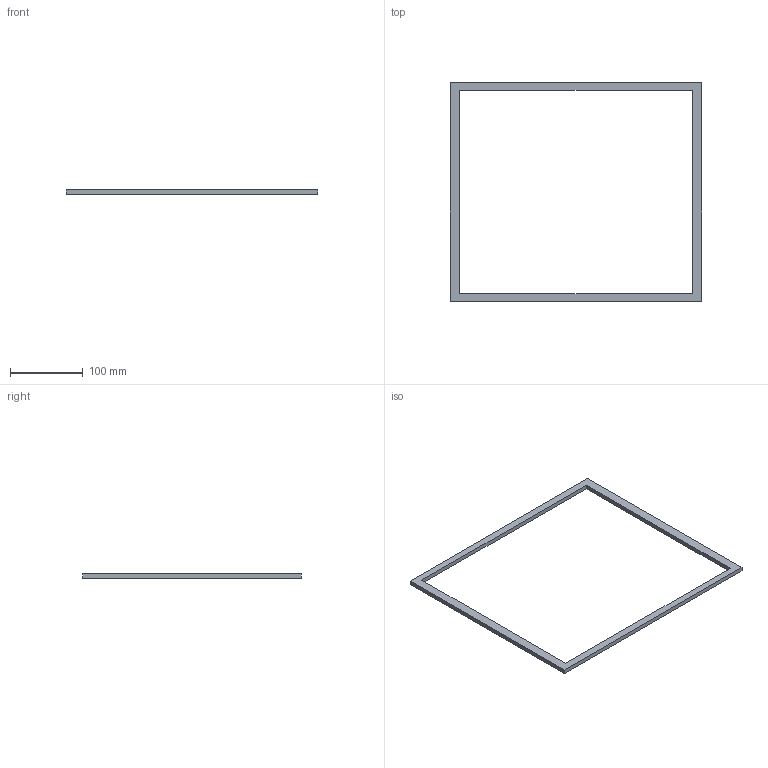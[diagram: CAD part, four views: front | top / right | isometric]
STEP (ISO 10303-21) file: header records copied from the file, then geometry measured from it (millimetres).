
FILE_DESCRIPTION(('Open CASCADE Model'),'2;1');
FILE_NAME('Open CASCADE Shape Model','2026-10-16T18:52:00',('Author'),( 'Open CASCADE'),'Open CASCADE STEP processor 7.8','Open CASCADE 7.8' ,'Unknown');
FILE_SCHEMA(('AUTOMOTIVE_DESIGN { 1 0 10303 214 1 1 1 1 }'));
Length unit declared in the file: millimetre
Products named in the file (1): Open CASCADE STEP translator 7.8 5
Bounding box: 346 x 300 x 6 mm (x, y, z)
Volume: 85200 mm3; surface area: 43352 mm2
Topology: 1 solids, 1 shells, 10 faces, 24 edges, 16 vertices
Faces by surface type: plane 10
Entity records: 598 total; most frequent: CARTESIAN_POINT 115, DIRECTION 78, LINE 56, VECTOR 56, ORIENTED_EDGE 48, PCURVE 48, DEFINITIONAL_REPRESENTATION 48, EDGE_CURVE 24
